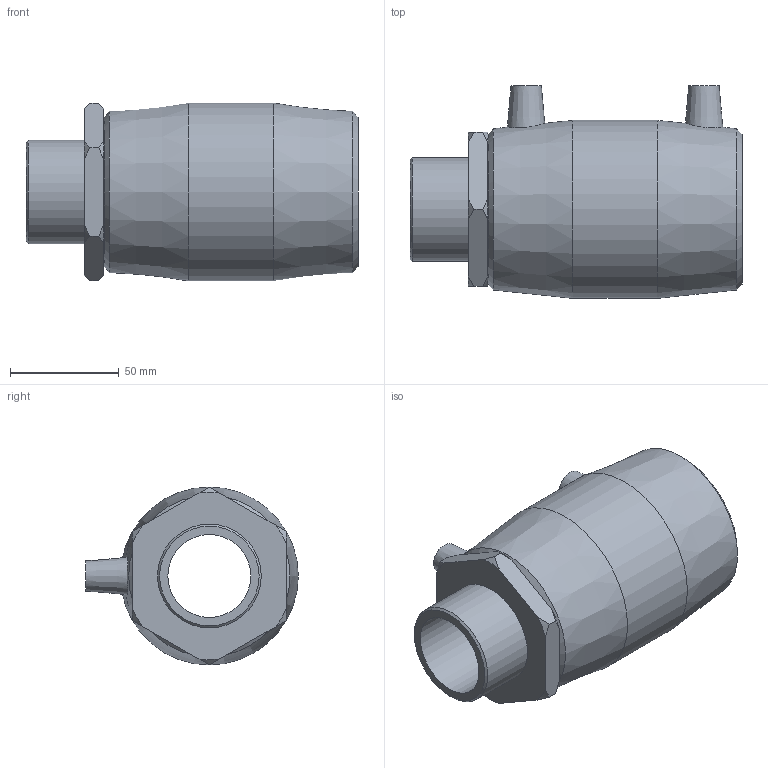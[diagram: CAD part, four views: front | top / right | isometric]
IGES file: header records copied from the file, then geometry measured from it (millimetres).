
Global section: file name: 492104063015.ipt; native system: Autodesk Inventor 2015; preprocessor: unknown; author: KIM; date: 20200202.122322; units: millimetre
Bounding box: 153 x 98 x 82 mm (x, y, z)
Volume: 337149 mm3; surface area: 74899.2 mm2
Topology: 1 solids, 2 shells, 54 faces, 129 edges, 88 vertices
Faces by surface type: plane 21, cone 19, revolution 8, cylinder 6
Full cylindrical faces by diameter (mm): 4 x2, 47.803 x1, 63 x2, 82 x1
